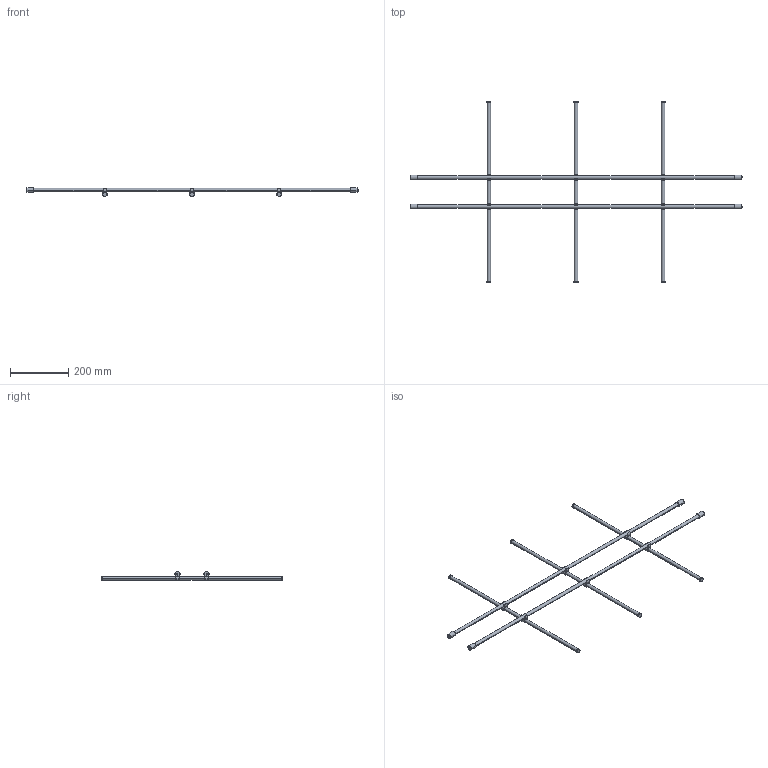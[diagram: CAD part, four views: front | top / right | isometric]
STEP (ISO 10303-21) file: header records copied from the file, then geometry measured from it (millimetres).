
FILE_DESCRIPTION (( 'STEP AP214' ), '1' );
FILE_NAME ('Magic-Classic_NL-660-KAB 1200.step', '2010-09-16T12:49:50', ( 'grass' ), ( '' ), 'SwSTEP 2.0', 'SolidWorks 2010', '' );
FILE_SCHEMA (( 'AUTOMOTIVE_DESIGN' ));
Length unit declared in the file: millimetre
Products named in the file (1): Magic-Classic_NL-660-KAB 1200
Bounding box: 1143 x 625 x 30.45 mm (x, y, z)
Volume: 494600.6 mm3; surface area: 164692.3 mm2
Topology: 1 solids, 1 shells, 190 faces, 534 edges, 356 vertices
Faces by surface type: plane 104, cylinder 86
Entity records: 6260 total; most frequent: DIRECTION 1136, CARTESIAN_POINT 1081, ORIENTED_EDGE 1068, EDGE_CURVE 534, AXIS2_PLACEMENT_3D 411, VERTEX_POINT 356, VECTOR 314, LINE 314
